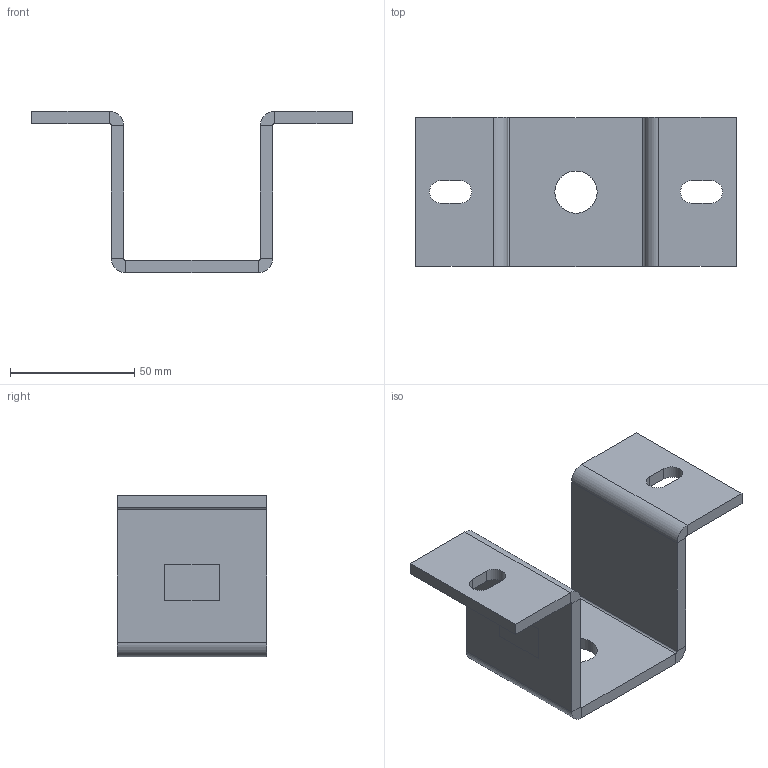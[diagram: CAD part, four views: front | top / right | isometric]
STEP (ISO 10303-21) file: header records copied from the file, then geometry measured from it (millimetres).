
FILE_DESCRIPTION(/* description */ ('Deckenkonsole Nr. 1+2, 1-fach'),/* implementation_level */ '2;1');
FILE_NAME(/* name */ 'Q:\sge-ma\Produktmanagement-STB\STB\Workspace\TraceParts\Deckenkonsole\010335811.stp',/* time_stamp */ '2018-02-20T13:05:56+01:00',/* author */ ('avschreier'),/* organization */ (''),/* preprocessor_version */ 'ST-DEVELOPER v16.1',/* originating_system */ 'Autodesk Inventor 2016',/* authorisation */ '');
FILE_SCHEMA (('CONFIG_CONTROL_DESIGN'));
Length unit declared in the file: millimetre
Products named in the file (1): 010335811
Bounding box: 129 x 60 x 65 mm (x, y, z)
Volume: 70506.1 mm3; surface area: 31947.6 mm2
Topology: 1 solids, 1 shells, 52 faces, 115 edges, 66 vertices
Faces by surface type: plane 39, cylinder 13
Full cylindrical faces by diameter (mm): 17 x1
Entity records: 1432 total; most frequent: DIRECTION 246, CARTESIAN_POINT 233, ORIENTED_EDGE 228, EDGE_CURVE 114, LINE 88, VECTOR 88, AXIS2_PLACEMENT_3D 79, VERTEX_POINT 66
